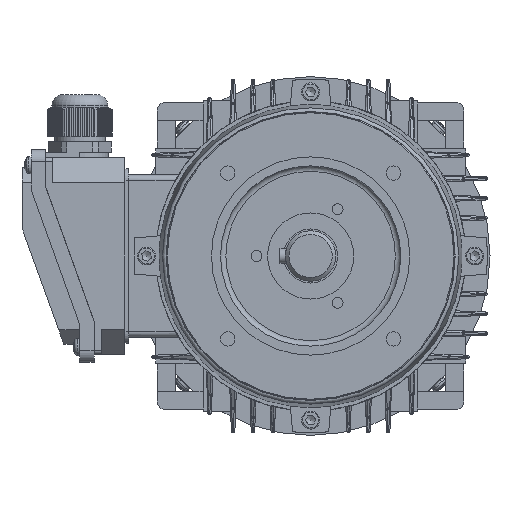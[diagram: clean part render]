
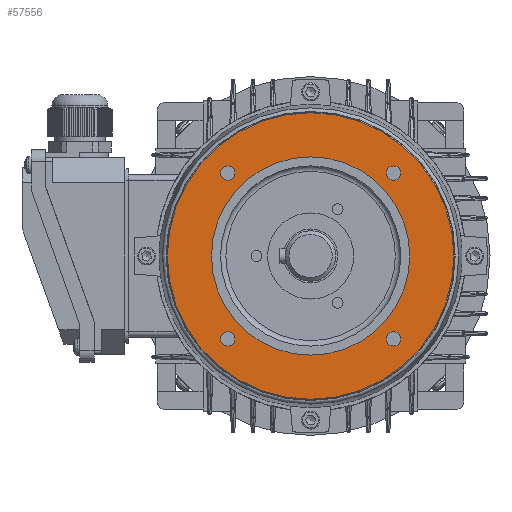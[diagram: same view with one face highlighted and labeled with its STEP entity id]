
A CAD part, left-side view. The second image highlights one B-rep face of the part: STEP entity #57556.
In plain terms, the highlighted planar face has unit normal (-1, 0, 0).
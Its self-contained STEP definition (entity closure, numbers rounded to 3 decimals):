
#11592=FACE_BOUND('',#21691,.T.);
#11593=FACE_BOUND('',#21692,.T.);
#11594=FACE_BOUND('',#21693,.T.);
#11595=FACE_BOUND('',#21694,.T.);
#11596=FACE_BOUND('',#21695,.T.);
#18290=FACE_OUTER_BOUND('',#21690,.T.);
#21690=EDGE_LOOP('',(#52336));
#21691=EDGE_LOOP('',(#52337));
#21692=EDGE_LOOP('',(#52338));
#21693=EDGE_LOOP('',(#52339));
#21694=EDGE_LOOP('',(#52340));
#21695=EDGE_LOOP('',(#52341));
#23704=CIRCLE('',#62161,55.);
#23706=CIRCLE('',#62165,79.5);
#23707=CIRCLE('',#62166,4.);
#23708=CIRCLE('',#62167,4.);
#23709=CIRCLE('',#62168,4.);
#23710=CIRCLE('',#62169,4.);
#28779=VERTEX_POINT('',#110048);
#28781=VERTEX_POINT('',#110054);
#28782=VERTEX_POINT('',#110056);
#28783=VERTEX_POINT('',#110058);
#28784=VERTEX_POINT('',#110060);
#28785=VERTEX_POINT('',#110062);
#36678=EDGE_CURVE('',#28779,#28779,#23704,.T.);
#36680=EDGE_CURVE('',#28781,#28781,#23706,.T.);
#36681=EDGE_CURVE('',#28782,#28782,#23707,.T.);
#36682=EDGE_CURVE('',#28783,#28783,#23708,.T.);
#36683=EDGE_CURVE('',#28784,#28784,#23709,.T.);
#36684=EDGE_CURVE('',#28785,#28785,#23710,.T.);
#52336=ORIENTED_EDGE('',*,*,#36680,.F.);
#52337=ORIENTED_EDGE('',*,*,#36681,.T.);
#52338=ORIENTED_EDGE('',*,*,#36682,.T.);
#52339=ORIENTED_EDGE('',*,*,#36683,.T.);
#52340=ORIENTED_EDGE('',*,*,#36684,.T.);
#52341=ORIENTED_EDGE('',*,*,#36678,.F.);
#54492=PLANE('',#62164);
#57556=ADVANCED_FACE('',(#18290,#11592,#11593,#11594,#11595,#11596),#54492,
 .T.);
#62161=AXIS2_PLACEMENT_3D('',#110049,#75640,#75641);
#62164=AXIS2_PLACEMENT_3D('',#110053,#75646,#75647);
#62165=AXIS2_PLACEMENT_3D('',#110055,#75648,#75649);
#62166=AXIS2_PLACEMENT_3D('',#110057,#75650,#75651);
#62167=AXIS2_PLACEMENT_3D('',#110059,#75652,#75653);
#62168=AXIS2_PLACEMENT_3D('',#110061,#75654,#75655);
#62169=AXIS2_PLACEMENT_3D('',#110063,#75656,#75657);
#75640=DIRECTION('center_axis',(-1.,0.,0.));
#75641=DIRECTION('ref_axis',(0.,1.,0.));
#75646=DIRECTION('center_axis',(-1.,0.,0.));
#75647=DIRECTION('ref_axis',(0.,0.,1.));
#75648=DIRECTION('center_axis',(1.,0.,0.));
#75649=DIRECTION('ref_axis',(0.,-1.,0.));
#75650=DIRECTION('center_axis',(1.,0.,0.));
#75651=DIRECTION('ref_axis',(0.,-1.,0.));
#75652=DIRECTION('center_axis',(1.,0.,0.));
#75653=DIRECTION('ref_axis',(0.,0.,1.));
#75654=DIRECTION('center_axis',(1.,0.,0.));
#75655=DIRECTION('ref_axis',(0.,1.,0.));
#75656=DIRECTION('center_axis',(1.,0.,0.));
#75657=DIRECTION('ref_axis',(0.,0.,-1.));
#110048=CARTESIAN_POINT('',(-351.275,172.586,0.));
#110049=CARTESIAN_POINT('Origin',(-351.275,117.586,0.));
#110053=CARTESIAN_POINT('Origin',(-351.275,185.086,0.));
#110054=CARTESIAN_POINT('',(-351.275,197.086,0.));
#110055=CARTESIAN_POINT('Origin',(-351.275,117.586,0.));
#110056=CARTESIAN_POINT('',(-351.275,167.548,-45.962));
#110057=CARTESIAN_POINT('Origin',(-351.275,163.548,-45.962));
#110058=CARTESIAN_POINT('',(-351.275,71.624,-49.962));
#110059=CARTESIAN_POINT('Origin',(-351.275,71.624,-45.962));
#110060=CARTESIAN_POINT('',(-351.275,67.624,45.962));
#110061=CARTESIAN_POINT('Origin',(-351.275,71.624,45.962));
#110062=CARTESIAN_POINT('',(-351.275,163.548,49.962));
#110063=CARTESIAN_POINT('Origin',(-351.275,163.548,45.962));
